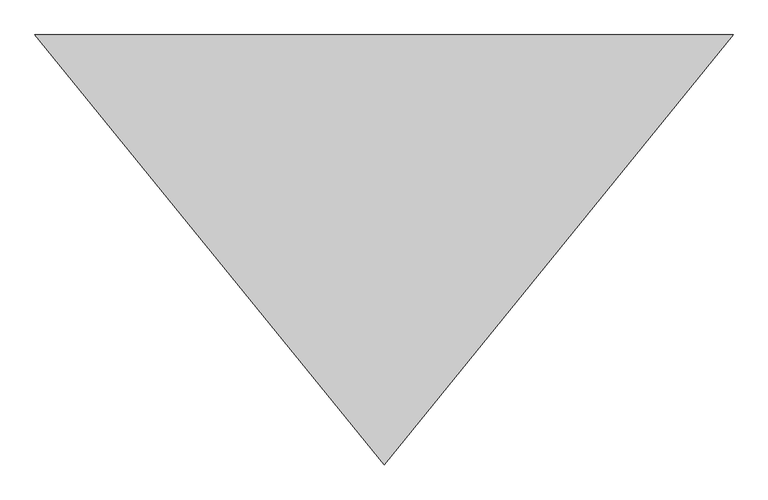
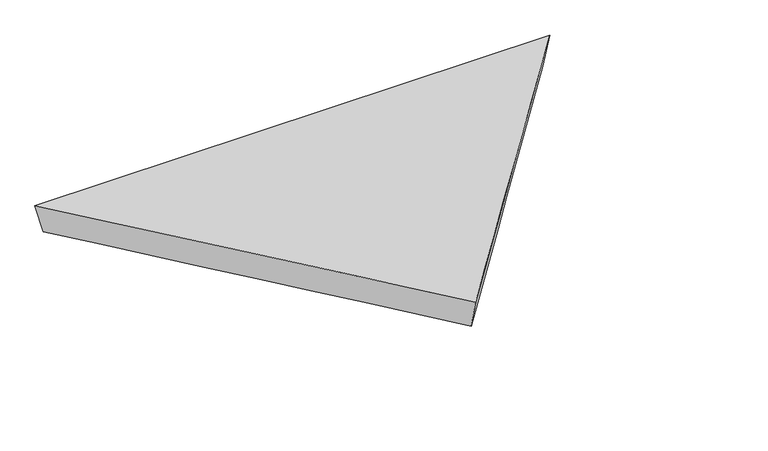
"""IFC4 building model written with IfcOpenShell, lengths in millimetres: plate geometry."""

from ifc_helpers import new_model, si_unit, frame, origin, place, context, project, spatial, source, transform, mapped, element, save
from ifc_brep_helpers import plane_surface, spline_surface, advanced_brep


def plate_fd8168a7(model_context):
    return source(origin(), model_context, "Body", "AdvancedBrep", [
        advanced_brep(
        [(6096.0, 3719.6871899, 0.0), (7746.0409996, 5760.1564051, 0.0), (7798.6330296, 5767.0923017, 196.1535412), (6096.0, 3670.094397, 197.0553092), (4445.9590004, 5760.1564051, 0.0), (4393.3669704, 5767.0923017, 196.1535412)],
        [
            (0, 1),
            (1, 2),
            (2, 3),
            (3, 0),
            (1, 4),
            (4, 5),
            (5, 2),
            (4, 0),
            (3, 5),
        ],
        [
            spline_surface(1, 1, [[(6096.0, 3719.6871899, 0.0), (6096.0, 3670.094397, 197.0553092)], [(7746.0409996, 5760.1564051, 0.0), (7798.6330296, 5767.0923017, 196.1535412)]], [2, 2], [2, 2], [0.0, 1.0], [0.0, 1.0]),
            plane_surface(frame((6096.0, 5760.1564051, 0.0), z_axis=(0.0, 0.9993754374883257, -0.035337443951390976), x_axis=(-1.0, 0.0, 0.0))),
            spline_surface(1, 1, [[(4445.9590004, 5760.1564051, 0.0), (4393.3669704, 5767.0923017, 196.1535412)], [(6096.0, 3719.6871899, 0.0), (6096.0, 3670.094397, 197.0553092)]], [2, 2], [2, 2], [0.0, 1.0], [0.0, 1.0]),
            plane_surface(frame((6096.0, 5068.0930001, 196.4541305), z_axis=(0.0, 0.00043002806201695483, 0.9999999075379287), x_axis=(0.6303299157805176, -0.7763273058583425, 0.0003338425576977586))),
            plane_surface(frame((6096.0, 5080.0, 0.0), z_axis=(0.0, 0.0, -1.0000000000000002), x_axis=(-0.6287912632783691, 0.7775741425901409, 0.0))),
        ],
        [
            (0, [[1, 2, 3, 4]]),
            (1, [[5, 6, 7, -2]]),
            (2, [[8, -4, 9, -6]]),
            (3, [[-9, -3, -7]]),
            (4, [[-8, -5, -1]]),
        ],
    ),
    ])


if __name__ == "__main__":
    model = new_model("IFC4")
    model_context = context("Model", 3, world=origin())
    ifc_project = project(units=[si_unit("LENGTHUNIT", "METRE", prefix="MILLI")], contexts=[model_context])
    site = spatial("IfcSite", under=ifc_project)
    building = spatial("IfcBuilding", under=site)
    placement = place(None, origin())
    plate_shape = plate_fd8168a7(model_context)
    element("IfcPlate", 1, ObjectType="tn_cpanel_patbase_triangle_flat_seamless_solid_01 : tn_cpanel_pattern_mullion_h8\"", at=placement, inside=building, context=model_context, shape_type="MappedRepresentation", body=[
        mapped(plate_shape, transform((0.0, 0.0, 0.0), x_axis=(1.0, 0.0, 0.0), y_axis=(0.0, 1.0, 0.0), z_axis=(0.0, 0.0, 1.0))),
    ])
    save(model, "model.ifc")
